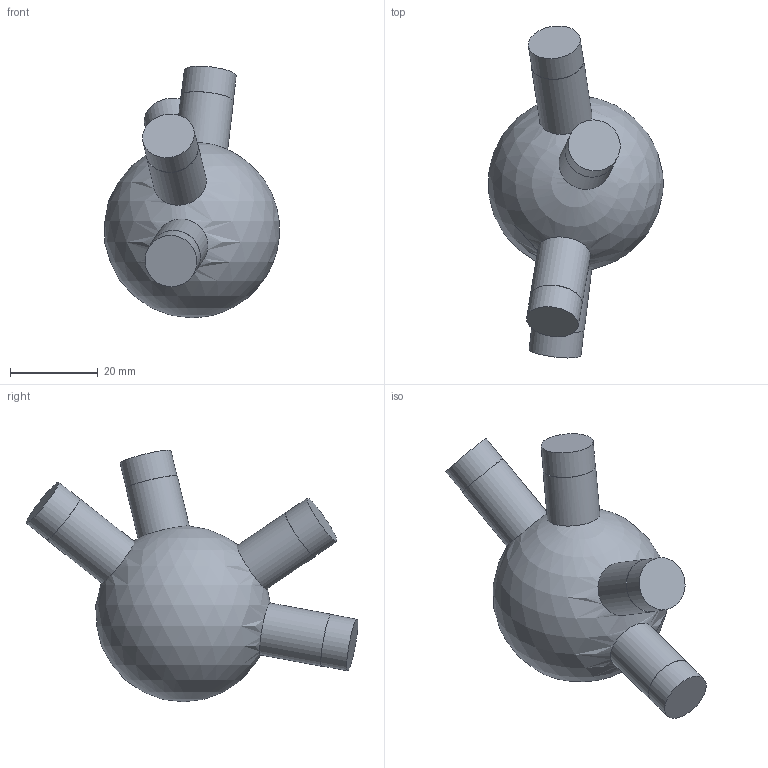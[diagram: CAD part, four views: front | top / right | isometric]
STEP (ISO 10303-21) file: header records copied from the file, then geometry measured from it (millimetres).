
FILE_DESCRIPTION(('Open CASCADE Model'),'2;1');
FILE_NAME('Open CASCADE Shape Model','2026-10-21T12:47:57',('Author'),( 'Open CASCADE'),'Open CASCADE STEP processor 7.9','Open CASCADE 7.9' ,'Unknown');
FILE_SCHEMA(('AUTOMOTIVE_DESIGN { 1 0 10303 214 1 1 1 1 }'));
Length unit declared in the file: millimetre
Products named in the file (1): Open CASCADE STEP translator 7.9 43
Bounding box: 39.75 x 75.47 x 57.22 mm (x, y, z)
Volume: 42249.6 mm3; surface area: 8006.5 mm2
Topology: 1 solids, 1 shells, 17 faces, 27 edges, 18 vertices
Faces by surface type: cylinder 8, plane 8, sphere 1
Full cylindrical faces by diameter (mm): 11.9 x4, 12 x4
Entity records: 1052 total; most frequent: CARTESIAN_POINT 434, DIRECTION 127, ORIENTED_EDGE 52, PCURVE 52, DEFINITIONAL_REPRESENTATION 52, LINE 43, VECTOR 43, AXIS2_PLACEMENT_3D 36
